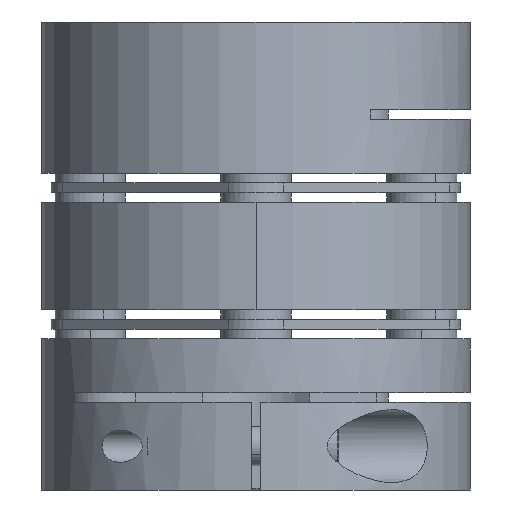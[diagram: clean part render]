
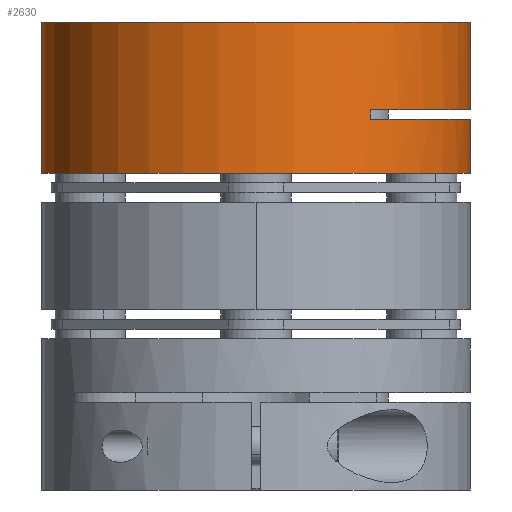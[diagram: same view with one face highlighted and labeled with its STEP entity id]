
A CAD part, front view. The second image highlights one B-rep face of the part: STEP entity #2630.
In plain terms, the highlighted cylindrical face has radius 22 mm (diameter 44 mm), a partial arc.
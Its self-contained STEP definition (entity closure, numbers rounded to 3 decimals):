
#329 = VERTEX_POINT ( 'NONE', #7687 ) ;
#378 = VERTEX_POINT ( 'NONE', #15289 ) ;
#613 = CARTESIAN_POINT ( 'NONE',  ( 5.562, 49.072, 93.386 ) ) ;
#807 = CARTESIAN_POINT ( 'NONE',  ( 27.562, 49.072, 103.386 ) ) ;
#1402 = CIRCLE ( 'NONE', #6955, 22. ) ;
#1438 = CARTESIAN_POINT ( 'NONE',  ( 5.562, 49.072, 103.386 ) ) ;
#1945 = EDGE_CURVE ( 'NONE', #10266, #14010, #13529, .T. ) ;
#2065 = EDGE_CURVE ( 'NONE', #8095, #14010, #5122, .T. ) ;
#2202 = DIRECTION ( 'NONE',  ( -1., 0., 0. ) ) ;
#2390 = DIRECTION ( 'NONE',  ( 0., 0., -1. ) ) ;
#2630 = ADVANCED_FACE ( 'NONE', ( #3448 ), #18248, .T. ) ;
#2687 = VERTEX_POINT ( 'NONE', #9374 ) ;
#3448 = FACE_OUTER_BOUND ( 'NONE', #7393, .T. ) ;
#3769 = CARTESIAN_POINT ( 'NONE',  ( 5.562, 49.072, 103.386 ) ) ;
#3822 = LINE ( 'NONE', #807, #19591 ) ;
#4167 = CARTESIAN_POINT ( 'NONE',  ( -16.438, 49.072, 103.386 ) ) ;
#4229 = AXIS2_PLACEMENT_3D ( 'NONE', #15813, #6383, #17398 ) ;
#4345 = DIRECTION ( 'NONE',  ( 0., 0., -1. ) ) ;
#4593 = ORIENTED_EDGE ( 'NONE', *, *, #4651, .F. ) ;
#4651 = EDGE_CURVE ( 'NONE', #8095, #378, #9765, .T. ) ;
#5041 = EDGE_CURVE ( 'NONE', #16270, #378, #1402, .T. ) ;
#5122 = CIRCLE ( 'NONE', #6292, 22. ) ;
#5356 = DIRECTION ( 'NONE',  ( 1., 0., 0. ) ) ;
#5624 = CARTESIAN_POINT ( 'NONE',  ( 27.562, 49.072, 94.386 ) ) ;
#6292 = AXIS2_PLACEMENT_3D ( 'NONE', #613, #11581, #2202 ) ;
#6383 = DIRECTION ( 'NONE',  ( 0., 0., -1. ) ) ;
#6385 = VECTOR ( 'NONE', #7350, 1000. ) ;
#6408 = CARTESIAN_POINT ( 'NONE',  ( 27.562, 49.072, 93.386 ) ) ;
#6510 = CARTESIAN_POINT ( 'NONE',  ( 17.272, 30.448, 94.386 ) ) ;
#6520 = DIRECTION ( 'NONE',  ( 0., 0., -1. ) ) ;
#6955 = AXIS2_PLACEMENT_3D ( 'NONE', #18461, #9000, #19997 ) ;
#7118 = AXIS2_PLACEMENT_3D ( 'NONE', #1438, #4345, #15650 ) ;
#7350 = DIRECTION ( 'NONE',  ( 0., 0., -1. ) ) ;
#7393 = EDGE_LOOP ( 'NONE', ( #18748, #11170, #17206, #10399, #4593, #16329, #12536, #9333 ) ) ;
#7687 = CARTESIAN_POINT ( 'NONE',  ( 27.562, 49.072, 103.386 ) ) ;
#8095 = VERTEX_POINT ( 'NONE', #6408 ) ;
#9000 = DIRECTION ( 'NONE',  ( 0., 0., 1. ) ) ;
#9333 = ORIENTED_EDGE ( 'NONE', *, *, #20102, .F. ) ;
#9336 = CIRCLE ( 'NONE', #4229, 22. ) ;
#9339 = VECTOR ( 'NONE', #6520, 1000. ) ;
#9374 = CARTESIAN_POINT ( 'NONE',  ( -16.438, 49.072, 103.386 ) ) ;
#9385 = EDGE_CURVE ( 'NONE', #2687, #329, #9812, .T. ) ;
#9765 = LINE ( 'NONE', #10240, #17675 ) ;
#9812 = CIRCLE ( 'NONE', #17271, 22. ) ;
#9929 = EDGE_CURVE ( 'NONE', #329, #14074, #3822, .T. ) ;
#10240 = CARTESIAN_POINT ( 'NONE',  ( 27.562, 49.072, 103.386 ) ) ;
#10266 = VERTEX_POINT ( 'NONE', #6510 ) ;
#10309 = CARTESIAN_POINT ( 'NONE',  ( -16.438, 49.072, 87.886 ) ) ;
#10399 = ORIENTED_EDGE ( 'NONE', *, *, #5041, .T. ) ;
#10534 = LINE ( 'NONE', #4167, #6385 ) ;
#11170 = ORIENTED_EDGE ( 'NONE', *, *, #9385, .F. ) ;
#11581 = DIRECTION ( 'NONE',  ( 0., 0., -1. ) ) ;
#11840 = CARTESIAN_POINT ( 'NONE',  ( 17.272, 30.448, 93.386 ) ) ;
#12536 = ORIENTED_EDGE ( 'NONE', *, *, #1945, .F. ) ;
#13408 = DIRECTION ( 'NONE',  ( 0., 0., -1. ) ) ;
#13529 = LINE ( 'NONE', #15946, #9339 ) ;
#14010 = VERTEX_POINT ( 'NONE', #11840 ) ;
#14074 = VERTEX_POINT ( 'NONE', #5624 ) ;
#14838 = DIRECTION ( 'NONE',  ( 0., 0., 1. ) ) ;
#15289 = CARTESIAN_POINT ( 'NONE',  ( 27.562, 49.072, 87.886 ) ) ;
#15650 = DIRECTION ( 'NONE',  ( -1., 0., 0. ) ) ;
#15813 = CARTESIAN_POINT ( 'NONE',  ( 5.562, 49.072, 94.386 ) ) ;
#15946 = CARTESIAN_POINT ( 'NONE',  ( 17.272, 30.448, 94.386 ) ) ;
#16270 = VERTEX_POINT ( 'NONE', #10309 ) ;
#16329 = ORIENTED_EDGE ( 'NONE', *, *, #2065, .T. ) ;
#17206 = ORIENTED_EDGE ( 'NONE', *, *, #19839, .T. ) ;
#17271 = AXIS2_PLACEMENT_3D ( 'NONE', #3769, #14838, #5356 ) ;
#17398 = DIRECTION ( 'NONE',  ( -1., 0., 0. ) ) ;
#17675 = VECTOR ( 'NONE', #13408, 1000. ) ;
#18248 = CYLINDRICAL_SURFACE ( 'NONE', #7118, 22. ) ;
#18461 = CARTESIAN_POINT ( 'NONE',  ( 5.562, 49.072, 87.886 ) ) ;
#18748 = ORIENTED_EDGE ( 'NONE', *, *, #9929, .F. ) ;
#19591 = VECTOR ( 'NONE', #2390, 1000. ) ;
#19839 = EDGE_CURVE ( 'NONE', #2687, #16270, #10534, .T. ) ;
#19997 = DIRECTION ( 'NONE',  ( 1., 0., 0. ) ) ;
#20102 = EDGE_CURVE ( 'NONE', #14074, #10266, #9336, .T. ) ;
